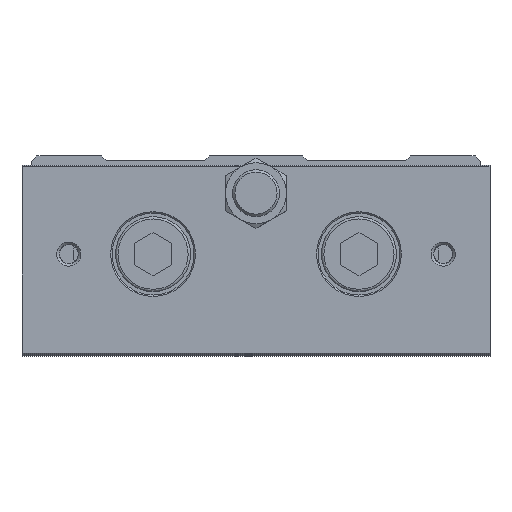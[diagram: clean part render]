
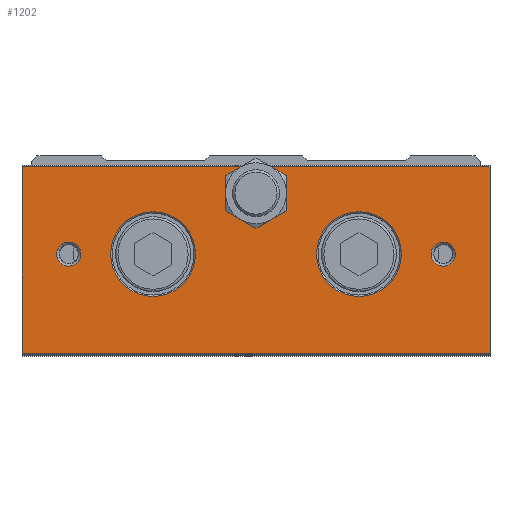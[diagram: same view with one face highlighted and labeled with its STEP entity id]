
A CAD part, top view. The second image highlights one B-rep face of the part: STEP entity #1202.
In plain terms, the highlighted planar face has unit normal (0, 0, 1).
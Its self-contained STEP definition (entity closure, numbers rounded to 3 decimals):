
#1044=CARTESIAN_POINT('',(42.567,-0.75,112.5));
#1045=VERTEX_POINT('',#1044);
#1046=CARTESIAN_POINT('',(40.0,-0.75,112.5));
#1047=DIRECTION('',(0.0,0.0,1.0));
#1048=DIRECTION('',(-1.0,0.0,0.0));
#1049=AXIS2_PLACEMENT_3D('',#1046,#1047,#1048);
#1050=CIRCLE('',#1049,2.567);
#1051=EDGE_CURVE('',#1045,#1045,#1050,.T.);
#1056=CARTESIAN_POINT('',(0.0,-22.25,112.5));
#1057=DIRECTION('',(0.0,0.0,1.0));
#1058=DIRECTION('',(1.0,0.0,0.0));
#1059=AXIS2_PLACEMENT_3D('',#1056,#1057,#1058);
#1060=PLANE('',#1059);
#1061=CARTESIAN_POINT('',(50.0,-21.95,112.5));
#1062=VERTEX_POINT('',#1061);
#1063=CARTESIAN_POINT('',(-50.0,-21.95,112.5));
#1064=VERTEX_POINT('',#1063);
#1065=CARTESIAN_POINT('',(50.0,-21.95,112.5));
#1066=DIRECTION('',(-1.0,0.0,0.0));
#1067=VECTOR('',#1066,100.0);
#1068=LINE('',#1065,#1067);
#1069=EDGE_CURVE('',#1062,#1064,#1068,.T.);
#1070=ORIENTED_EDGE('',*,*,#1069,.F.);
#1071=CARTESIAN_POINT('',(50.0,17.95,112.5));
#1072=VERTEX_POINT('',#1071);
#1073=CARTESIAN_POINT('',(50.0,-21.95,112.5));
#1074=DIRECTION('',(0.0,1.0,0.0));
#1075=VECTOR('',#1074,39.9);
#1076=LINE('',#1073,#1075);
#1077=EDGE_CURVE('',#1062,#1072,#1076,.T.);
#1078=ORIENTED_EDGE('',*,*,#1077,.T.);
#1079=CARTESIAN_POINT('',(3.124,17.95,112.5));
#1080=VERTEX_POINT('',#1079);
#1081=CARTESIAN_POINT('',(3.124,17.95,112.5));
#1082=DIRECTION('',(1.0,0.0,0.0));
#1083=VECTOR('',#1082,46.876);
#1084=LINE('',#1081,#1083);
#1085=EDGE_CURVE('',#1080,#1072,#1084,.T.);
#1086=ORIENTED_EDGE('',*,*,#1085,.F.);
#1087=CARTESIAN_POINT('',(3.25,17.879,112.5));
#1088=VERTEX_POINT('',#1087);
#1089=CARTESIAN_POINT('',(0.0,12.25,112.5));
#1090=DIRECTION('',(0.0,0.0,1.0));
#1091=DIRECTION('',(0.0,1.0,0.0));
#1092=AXIS2_PLACEMENT_3D('',#1089,#1090,#1091);
#1093=CIRCLE('',#1092,6.5);
#1094=EDGE_CURVE('',#1088,#1080,#1093,.T.);
#1095=ORIENTED_EDGE('',*,*,#1094,.F.);
#1096=CARTESIAN_POINT('',(6.5,12.25,112.5));
#1097=VERTEX_POINT('',#1096);
#1098=CARTESIAN_POINT('',(0.0,12.25,112.5));
#1099=DIRECTION('',(0.0,0.0,1.0));
#1100=DIRECTION('',(0.0,1.0,0.0));
#1101=AXIS2_PLACEMENT_3D('',#1098,#1099,#1100);
#1102=CIRCLE('',#1101,6.5);
#1103=EDGE_CURVE('',#1097,#1088,#1102,.T.);
#1104=ORIENTED_EDGE('',*,*,#1103,.F.);
#1105=CARTESIAN_POINT('',(3.25,6.621,112.5));
#1106=VERTEX_POINT('',#1105);
#1107=CARTESIAN_POINT('',(0.0,12.25,112.5));
#1108=DIRECTION('',(0.0,0.0,1.0));
#1109=DIRECTION('',(0.0,1.0,0.0));
#1110=AXIS2_PLACEMENT_3D('',#1107,#1108,#1109);
#1111=CIRCLE('',#1110,6.5);
#1112=EDGE_CURVE('',#1106,#1097,#1111,.T.);
#1113=ORIENTED_EDGE('',*,*,#1112,.F.);
#1114=CARTESIAN_POINT('',(-3.25,6.621,112.5));
#1115=VERTEX_POINT('',#1114);
#1116=CARTESIAN_POINT('',(0.0,12.25,112.5));
#1117=DIRECTION('',(0.0,0.0,1.0));
#1118=DIRECTION('',(0.0,1.0,0.0));
#1119=AXIS2_PLACEMENT_3D('',#1116,#1117,#1118);
#1120=CIRCLE('',#1119,6.5);
#1121=EDGE_CURVE('',#1115,#1106,#1120,.T.);
#1122=ORIENTED_EDGE('',*,*,#1121,.F.);
#1123=CARTESIAN_POINT('',(-6.5,12.25,112.5));
#1124=VERTEX_POINT('',#1123);
#1125=CARTESIAN_POINT('',(0.0,12.25,112.5));
#1126=DIRECTION('',(0.0,0.0,1.0));
#1127=DIRECTION('',(0.0,1.0,0.0));
#1128=AXIS2_PLACEMENT_3D('',#1125,#1126,#1127);
#1129=CIRCLE('',#1128,6.5);
#1130=EDGE_CURVE('',#1124,#1115,#1129,.T.);
#1131=ORIENTED_EDGE('',*,*,#1130,.F.);
#1132=CARTESIAN_POINT('',(-3.25,17.879,112.5));
#1133=VERTEX_POINT('',#1132);
#1134=CARTESIAN_POINT('',(0.0,12.25,112.5));
#1135=DIRECTION('',(0.0,0.0,1.0));
#1136=DIRECTION('',(0.0,1.0,0.0));
#1137=AXIS2_PLACEMENT_3D('',#1134,#1135,#1136);
#1138=CIRCLE('',#1137,6.5);
#1139=EDGE_CURVE('',#1133,#1124,#1138,.T.);
#1140=ORIENTED_EDGE('',*,*,#1139,.F.);
#1141=CARTESIAN_POINT('',(-3.124,17.95,112.5));
#1142=VERTEX_POINT('',#1141);
#1143=CARTESIAN_POINT('',(0.0,12.25,112.5));
#1144=DIRECTION('',(0.0,0.0,1.0));
#1145=DIRECTION('',(0.0,1.0,0.0));
#1146=AXIS2_PLACEMENT_3D('',#1143,#1144,#1145);
#1147=CIRCLE('',#1146,6.5);
#1148=EDGE_CURVE('',#1142,#1133,#1147,.T.);
#1149=ORIENTED_EDGE('',*,*,#1148,.F.);
#1150=CARTESIAN_POINT('',(-50.0,17.95,112.5));
#1151=VERTEX_POINT('',#1150);
#1152=CARTESIAN_POINT('',(-50.0,17.95,112.5));
#1153=DIRECTION('',(1.0,0.0,0.0));
#1154=VECTOR('',#1153,46.876);
#1155=LINE('',#1152,#1154);
#1156=EDGE_CURVE('',#1151,#1142,#1155,.T.);
#1157=ORIENTED_EDGE('',*,*,#1156,.F.);
#1158=CARTESIAN_POINT('',(-50.0,17.95,112.5));
#1159=DIRECTION('',(0.0,-1.0,0.0));
#1160=VECTOR('',#1159,39.9);
#1161=LINE('',#1158,#1160);
#1162=EDGE_CURVE('',#1151,#1064,#1161,.T.);
#1163=ORIENTED_EDGE('',*,*,#1162,.T.);
#1164=EDGE_LOOP('',(#1070,#1078,#1086,#1095,#1104,#1113,#1122,#1131,#1140,#1149,#1157,#1163));
#1165=FACE_OUTER_BOUND('',#1164,.T.);
#1166=CARTESIAN_POINT('',(-37.433,-0.75,112.5));
#1167=VERTEX_POINT('',#1166);
#1168=CARTESIAN_POINT('',(-40.0,-0.75,112.5));
#1169=DIRECTION('',(0.0,0.0,1.0));
#1170=DIRECTION('',(-1.0,0.0,0.0));
#1171=AXIS2_PLACEMENT_3D('',#1168,#1169,#1170);
#1172=CIRCLE('',#1171,2.567);
#1173=EDGE_CURVE('',#1167,#1167,#1172,.T.);
#1174=ORIENTED_EDGE('',*,*,#1173,.F.);
#1175=EDGE_LOOP('',(#1174));
#1176=FACE_BOUND('',#1175,.T.);
#1177=CARTESIAN_POINT('',(-12.95,-0.75,112.5));
#1178=VERTEX_POINT('',#1177);
#1179=CARTESIAN_POINT('',(-22.0,-0.75,112.5));
#1180=DIRECTION('',(0.0,0.0,1.0));
#1181=DIRECTION('',(-1.0,0.0,0.0));
#1182=AXIS2_PLACEMENT_3D('',#1179,#1180,#1181);
#1183=CIRCLE('',#1182,9.05);
#1184=EDGE_CURVE('',#1178,#1178,#1183,.T.);
#1185=ORIENTED_EDGE('',*,*,#1184,.F.);
#1186=EDGE_LOOP('',(#1185));
#1187=FACE_BOUND('',#1186,.T.);
#1188=CARTESIAN_POINT('',(31.05,-0.75,112.5));
#1189=VERTEX_POINT('',#1188);
#1190=CARTESIAN_POINT('',(22.0,-0.75,112.5));
#1191=DIRECTION('',(0.0,0.0,1.0));
#1192=DIRECTION('',(-1.0,0.0,0.0));
#1193=AXIS2_PLACEMENT_3D('',#1190,#1191,#1192);
#1194=CIRCLE('',#1193,9.05);
#1195=EDGE_CURVE('',#1189,#1189,#1194,.T.);
#1196=ORIENTED_EDGE('',*,*,#1195,.F.);
#1197=EDGE_LOOP('',(#1196));
#1198=FACE_BOUND('',#1197,.T.);
#1199=ORIENTED_EDGE('',*,*,#1051,.F.);
#1200=EDGE_LOOP('',(#1199));
#1201=FACE_BOUND('',#1200,.T.);
#1202=ADVANCED_FACE('',(#1165,#1176,#1187,#1198,#1201),#1060,.T.);
